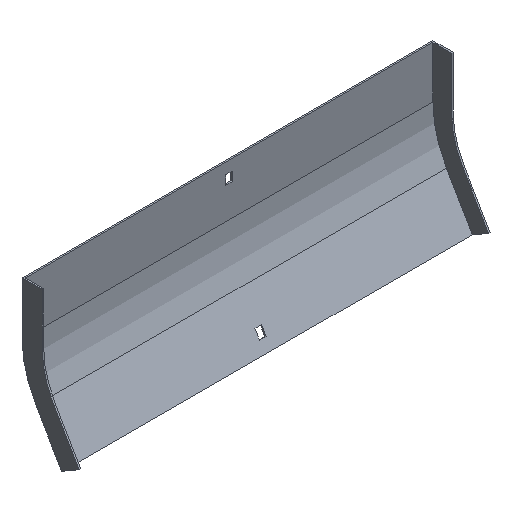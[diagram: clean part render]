
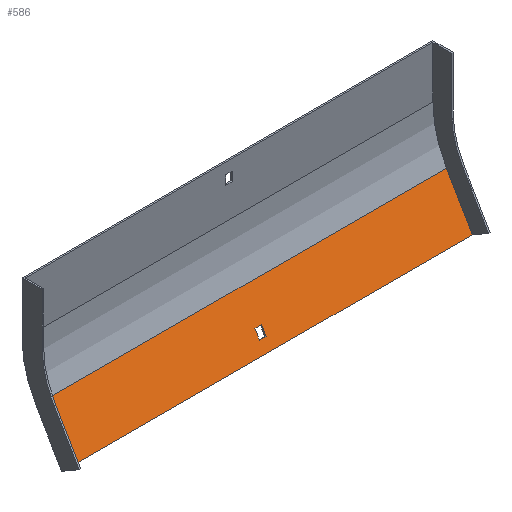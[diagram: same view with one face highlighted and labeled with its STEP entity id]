
A CAD part, isometric view. The second image highlights one B-rep face of the part: STEP entity #586.
In plain terms, the highlighted planar face has unit normal (0, -0.866, 0.5).
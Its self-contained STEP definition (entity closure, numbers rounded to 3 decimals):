
#22 = ORIENTED_EDGE ( 'NONE', *, *, #848, .T. ) ;
#47 = LINE ( 'NONE', #646, #660 ) ;
#55 = CARTESIAN_POINT ( 'NONE',  ( 3.25, -14.897, -101.2 ) ) ;
#76 = CARTESIAN_POINT ( 'NONE',  ( 202., -40.497, -145.541 ) ) ;
#86 = AXIS2_PLACEMENT_3D ( 'NONE', #613, #728, #670 ) ;
#140 = LINE ( 'NONE', #811, #611 ) ;
#187 = FACE_OUTER_BOUND ( 'NONE', #671, .T. ) ;
#188 = VERTEX_POINT ( 'NONE', #282 ) ;
#189 = LINE ( 'NONE', #55, #289 ) ;
#190 = VERTEX_POINT ( 'NONE', #76 ) ;
#194 = PLANE ( 'NONE',  #86 ) ;
#202 = CARTESIAN_POINT ( 'NONE',  ( 203.5, -34.997, -136.014 ) ) ;
#205 = EDGE_CURVE ( 'NONE', #190, #840, #433, .T. ) ;
#237 = CARTESIAN_POINT ( 'NONE',  ( 203.5, -14.897, -101.2 ) ) ;
#262 = LINE ( 'NONE', #544, #748 ) ;
#263 = EDGE_LOOP ( 'NONE', ( #764, #655, #609, #749 ) ) ;
#268 = VERTEX_POINT ( 'NONE', #314 ) ;
#280 = CARTESIAN_POINT ( 'NONE',  ( 3.25, -30.497, -128.22 ) ) ;
#282 = CARTESIAN_POINT ( 'NONE',  ( -202., -14.897, -101.2 ) ) ;
#289 = VECTOR ( 'NONE', #517, 1000. ) ;
#314 = CARTESIAN_POINT ( 'NONE',  ( -3.25, -34.997, -136.014 ) ) ;
#332 = ORIENTED_EDGE ( 'NONE', *, *, #718, .F. ) ;
#341 = ORIENTED_EDGE ( 'NONE', *, *, #205, .F. ) ;
#345 = CARTESIAN_POINT ( 'NONE',  ( 203.5, -30.497, -128.22 ) ) ;
#354 = DIRECTION ( 'NONE',  ( 0., 0.5, 0.866 ) ) ;
#367 = EDGE_CURVE ( 'NONE', #190, #636, #140, .T. ) ;
#385 = EDGE_CURVE ( 'NONE', #771, #268, #616, .T. ) ;
#389 = FACE_BOUND ( 'NONE', #263, .T. ) ;
#401 = CARTESIAN_POINT ( 'NONE',  ( -3.25, -30.497, -128.22 ) ) ;
#404 = DIRECTION ( 'NONE',  ( 1., 0., 0. ) ) ;
#414 = VECTOR ( 'NONE', #619, 1000. ) ;
#420 = CARTESIAN_POINT ( 'NONE',  ( 203.5, -40.497, -145.541 ) ) ;
#433 = LINE ( 'NONE', #420, #837 ) ;
#473 = EDGE_CURVE ( 'NONE', #268, #710, #47, .T. ) ;
#481 = EDGE_CURVE ( 'NONE', #740, #771, #189, .T. ) ;
#517 = DIRECTION ( 'NONE',  ( 0., -0.5, -0.866 ) ) ;
#536 = DIRECTION ( 'NONE',  ( -1., 0., 0. ) ) ;
#544 = CARTESIAN_POINT ( 'NONE',  ( -202., -14.897, -101.2 ) ) ;
#586 = ADVANCED_FACE ( 'NONE', ( #187, #389 ), #194, .T. ) ;
#607 = LINE ( 'NONE', #345, #717 ) ;
#609 = ORIENTED_EDGE ( 'NONE', *, *, #640, .T. ) ;
#611 = VECTOR ( 'NONE', #622, 1000. ) ;
#613 = CARTESIAN_POINT ( 'NONE',  ( 203.5, -14.897, -101.2 ) ) ;
#616 = LINE ( 'NONE', #202, #657 ) ;
#619 = DIRECTION ( 'NONE',  ( -1., 0., 0. ) ) ;
#622 = DIRECTION ( 'NONE',  ( 0., 0.5, 0.866 ) ) ;
#626 = CARTESIAN_POINT ( 'NONE',  ( 3.25, -34.997, -136.014 ) ) ;
#636 = VERTEX_POINT ( 'NONE', #800 ) ;
#640 = EDGE_CURVE ( 'NONE', #710, #740, #607, .T. ) ;
#646 = CARTESIAN_POINT ( 'NONE',  ( -3.25, -14.897, -101.2 ) ) ;
#655 = ORIENTED_EDGE ( 'NONE', *, *, #473, .T. ) ;
#657 = VECTOR ( 'NONE', #536, 1000. ) ;
#660 = VECTOR ( 'NONE', #354, 1000. ) ;
#670 = DIRECTION ( 'NONE',  ( 0., -0.5, -0.866 ) ) ;
#671 = EDGE_LOOP ( 'NONE', ( #332, #341, #674, #22 ) ) ;
#674 = ORIENTED_EDGE ( 'NONE', *, *, #367, .T. ) ;
#686 = DIRECTION ( 'NONE',  ( -1., 0., 0. ) ) ;
#710 = VERTEX_POINT ( 'NONE', #401 ) ;
#717 = VECTOR ( 'NONE', #404, 1000. ) ;
#718 = EDGE_CURVE ( 'NONE', #840, #188, #262, .T. ) ;
#728 = DIRECTION ( 'NONE',  ( 0., -0.866, 0.5 ) ) ;
#740 = VERTEX_POINT ( 'NONE', #280 ) ;
#748 = VECTOR ( 'NONE', #803, 1000. ) ;
#749 = ORIENTED_EDGE ( 'NONE', *, *, #481, .T. ) ;
#764 = ORIENTED_EDGE ( 'NONE', *, *, #385, .T. ) ;
#765 = CARTESIAN_POINT ( 'NONE',  ( -202., -40.497, -145.541 ) ) ;
#769 = LINE ( 'NONE', #237, #414 ) ;
#771 = VERTEX_POINT ( 'NONE', #626 ) ;
#800 = CARTESIAN_POINT ( 'NONE',  ( 202., -14.897, -101.2 ) ) ;
#803 = DIRECTION ( 'NONE',  ( 0., 0.5, 0.866 ) ) ;
#811 = CARTESIAN_POINT ( 'NONE',  ( 202., -14.897, -101.2 ) ) ;
#837 = VECTOR ( 'NONE', #686, 1000. ) ;
#840 = VERTEX_POINT ( 'NONE', #765 ) ;
#848 = EDGE_CURVE ( 'NONE', #636, #188, #769, .T. ) ;
